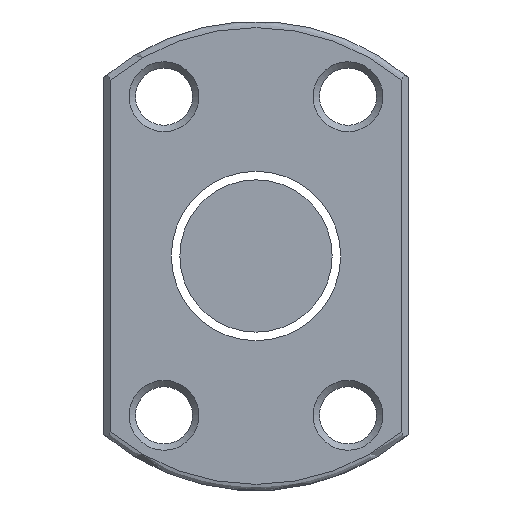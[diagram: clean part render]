
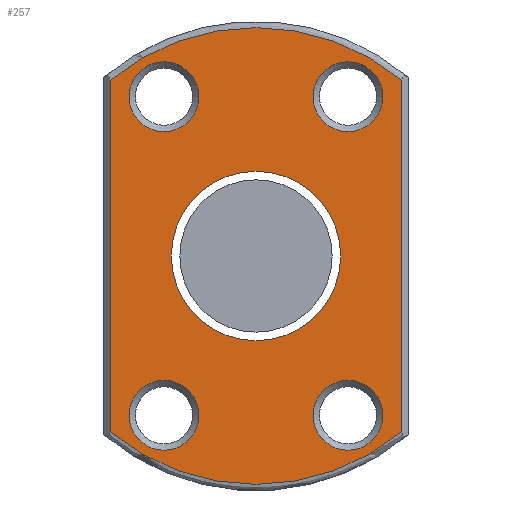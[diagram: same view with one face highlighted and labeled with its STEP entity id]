
A CAD part, left-side view. The second image highlights one B-rep face of the part: STEP entity #257.
In plain terms, the highlighted planar face has unit normal (-1, 0, 0).
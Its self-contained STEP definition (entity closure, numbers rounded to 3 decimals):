
#4 = FACE_OUTER_BOUND ( 'NONE', #264, .T. ) ;
#13 = FACE_BOUND ( 'NONE', #379, .T. ) ;
#18 = DIRECTION ( 'NONE',  ( 0., -1., 0. ) ) ;
#21 = DIRECTION ( 'NONE',  ( 0., -1., 0. ) ) ;
#34 = AXIS2_PLACEMENT_3D ( 'NONE', #302, #372, #21 ) ;
#56 = CIRCLE ( 'NONE', #207, 2.75 ) ;
#58 = EDGE_LOOP ( 'NONE', ( #389 ) ) ;
#71 = DIRECTION ( 'NONE',  ( 0., -1., 0. ) ) ;
#81 = DIRECTION ( 'NONE',  ( 0., -1., 0. ) ) ;
#109 = VECTOR ( 'NONE', #799, 1000. ) ;
#125 = VERTEX_POINT ( 'NONE', #923 ) ;
#141 = DIRECTION ( 'NONE',  ( -1., 0., 0. ) ) ;
#147 = DIRECTION ( 'NONE',  ( 0., -1., 0. ) ) ;
#150 = EDGE_CURVE ( 'NONE', #853, #886, #565, .T. ) ;
#155 = FACE_BOUND ( 'NONE', #687, .T. ) ;
#159 = DIRECTION ( 'NONE',  ( 0., 0., -1. ) ) ;
#166 = CARTESIAN_POINT ( 'NONE',  ( -39., -7.25, 12.557 ) ) ;
#189 = ORIENTED_EDGE ( 'NONE', *, *, #314, .T. ) ;
#205 = ORIENTED_EDGE ( 'NONE', *, *, #150, .T. ) ;
#207 = AXIS2_PLACEMENT_3D ( 'NONE', #473, #328, #538 ) ;
#224 = CARTESIAN_POINT ( 'NONE',  ( -39., 11.5, 0. ) ) ;
#227 = EDGE_CURVE ( 'NONE', #125, #853, #796, .T. ) ;
#230 = DIRECTION ( 'NONE',  ( -1., 0., 0. ) ) ;
#257 = ADVANCED_FACE ( 'NONE', ( #155, #13, #288, #351, #574, #4 ), #439, .T. ) ;
#264 = EDGE_LOOP ( 'NONE', ( #278, #205, #527, #189 ) ) ;
#273 = EDGE_LOOP ( 'NONE', ( #893 ) ) ;
#278 = ORIENTED_EDGE ( 'NONE', *, *, #227, .T. ) ;
#287 = EDGE_CURVE ( 'NONE', #854, #854, #817, .T. ) ;
#288 = FACE_BOUND ( 'NONE', #58, .T. ) ;
#302 = CARTESIAN_POINT ( 'NONE',  ( -39., 0., 0. ) ) ;
#314 = EDGE_CURVE ( 'NONE', #673, #125, #711, .T. ) ;
#323 = DIRECTION ( 'NONE',  ( 0., 1., 0. ) ) ;
#328 = DIRECTION ( 'NONE',  ( 1., 0., 0. ) ) ;
#331 = CARTESIAN_POINT ( 'NONE',  ( -39., -7.25, -12.557 ) ) ;
#345 = CARTESIAN_POINT ( 'NONE',  ( -39., -10., 12.557 ) ) ;
#351 = FACE_BOUND ( 'NONE', #701, .T. ) ;
#352 = VERTEX_POINT ( 'NONE', #546 ) ;
#358 = ORIENTED_EDGE ( 'NONE', *, *, #758, .T. ) ;
#372 = DIRECTION ( 'NONE',  ( -1., 0., 0. ) ) ;
#375 = CARTESIAN_POINT ( 'NONE',  ( -39., -11.5, 13.847 ) ) ;
#379 = EDGE_LOOP ( 'NONE', ( #358 ) ) ;
#389 = ORIENTED_EDGE ( 'NONE', *, *, #287, .T. ) ;
#403 = ORIENTED_EDGE ( 'NONE', *, *, #932, .T. ) ;
#411 = VERTEX_POINT ( 'NONE', #551 ) ;
#422 = DIRECTION ( 'NONE',  ( 0., -1., 0. ) ) ;
#428 = EDGE_CURVE ( 'NONE', #411, #411, #614, .T. ) ;
#439 = PLANE ( 'NONE',  #548 ) ;
#447 = VECTOR ( 'NONE', #159, 1000. ) ;
#462 = AXIS2_PLACEMENT_3D ( 'NONE', #724, #230, #71 ) ;
#473 = CARTESIAN_POINT ( 'NONE',  ( -39., 7.25, -12.557 ) ) ;
#500 = DIRECTION ( 'NONE',  ( 1., 0., 0. ) ) ;
#527 = ORIENTED_EDGE ( 'NONE', *, *, #627, .T. ) ;
#538 = DIRECTION ( 'NONE',  ( 0., -1., 0. ) ) ;
#542 = ORIENTED_EDGE ( 'NONE', *, *, #881, .T. ) ;
#546 = CARTESIAN_POINT ( 'NONE',  ( -39., 4.5, -12.557 ) ) ;
#548 = AXIS2_PLACEMENT_3D ( 'NONE', #733, #141, #81 ) ;
#551 = CARTESIAN_POINT ( 'NONE',  ( -39., 6.675, 0. ) ) ;
#558 = CIRCLE ( 'NONE', #823, 2.75 ) ;
#562 = CARTESIAN_POINT ( 'NONE',  ( -39., -11.5, 0. ) ) ;
#565 = CIRCLE ( 'NONE', #34, 18. ) ;
#572 = LINE ( 'NONE', #562, #109 ) ;
#574 = FACE_BOUND ( 'NONE', #273, .T. ) ;
#575 = CIRCLE ( 'NONE', #734, 2.75 ) ;
#597 = DIRECTION ( 'NONE',  ( 1., 0., 0. ) ) ;
#614 = CIRCLE ( 'NONE', #773, 6.675 ) ;
#627 = EDGE_CURVE ( 'NONE', #886, #673, #572, .T. ) ;
#665 = CARTESIAN_POINT ( 'NONE',  ( -39., 7.25, 12.557 ) ) ;
#667 = AXIS2_PLACEMENT_3D ( 'NONE', #665, #500, #18 ) ;
#673 = VERTEX_POINT ( 'NONE', #375 ) ;
#687 = EDGE_LOOP ( 'NONE', ( #403 ) ) ;
#691 = DIRECTION ( 'NONE',  ( 1., 0., 0. ) ) ;
#701 = EDGE_LOOP ( 'NONE', ( #542 ) ) ;
#708 = CARTESIAN_POINT ( 'NONE',  ( -39., -10., -12.557 ) ) ;
#711 = CIRCLE ( 'NONE', #462, 18. ) ;
#724 = CARTESIAN_POINT ( 'NONE',  ( -39., 0., 0. ) ) ;
#733 = CARTESIAN_POINT ( 'NONE',  ( -39., 18.5, 0. ) ) ;
#734 = AXIS2_PLACEMENT_3D ( 'NONE', #331, #754, #422 ) ;
#754 = DIRECTION ( 'NONE',  ( 1., 0., 0. ) ) ;
#758 = EDGE_CURVE ( 'NONE', #792, #792, #558, .T. ) ;
#768 = CARTESIAN_POINT ( 'NONE',  ( -39., 0., 0. ) ) ;
#773 = AXIS2_PLACEMENT_3D ( 'NONE', #768, #691, #323 ) ;
#792 = VERTEX_POINT ( 'NONE', #345 ) ;
#796 = LINE ( 'NONE', #224, #447 ) ;
#799 = DIRECTION ( 'NONE',  ( 0., 0., 1. ) ) ;
#817 = CIRCLE ( 'NONE', #667, 2.75 ) ;
#823 = AXIS2_PLACEMENT_3D ( 'NONE', #166, #597, #147 ) ;
#838 = CARTESIAN_POINT ( 'NONE',  ( -39., -11.5, -13.847 ) ) ;
#853 = VERTEX_POINT ( 'NONE', #906 ) ;
#854 = VERTEX_POINT ( 'NONE', #925 ) ;
#859 = VERTEX_POINT ( 'NONE', #708 ) ;
#881 = EDGE_CURVE ( 'NONE', #352, #352, #56, .T. ) ;
#886 = VERTEX_POINT ( 'NONE', #838 ) ;
#893 = ORIENTED_EDGE ( 'NONE', *, *, #428, .T. ) ;
#906 = CARTESIAN_POINT ( 'NONE',  ( -39., 11.5, -13.847 ) ) ;
#923 = CARTESIAN_POINT ( 'NONE',  ( -39., 11.5, 13.847 ) ) ;
#925 = CARTESIAN_POINT ( 'NONE',  ( -39., 4.5, 12.557 ) ) ;
#932 = EDGE_CURVE ( 'NONE', #859, #859, #575, .T. ) ;
